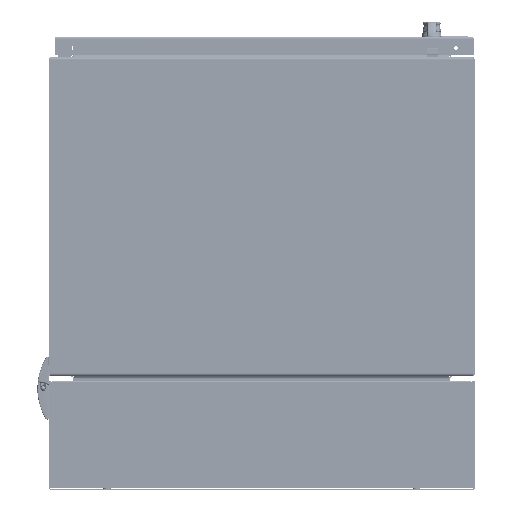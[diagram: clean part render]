
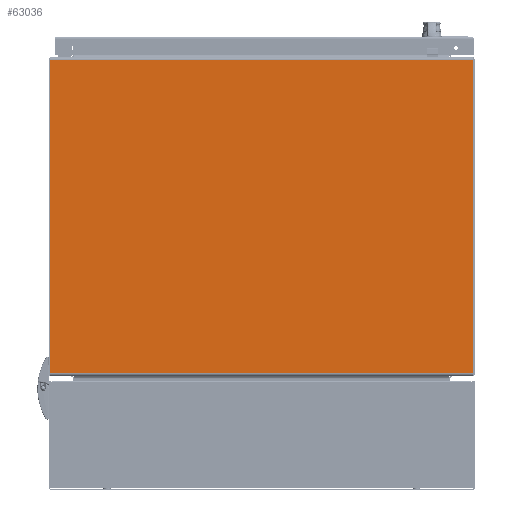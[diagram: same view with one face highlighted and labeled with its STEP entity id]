
A CAD part, front view. The second image highlights one B-rep face of the part: STEP entity #63036.
In plain terms, the highlighted planar face has unit normal (0, -1, 0).
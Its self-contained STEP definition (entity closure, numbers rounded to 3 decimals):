
#5575 = CARTESIAN_POINT ( 'NONE',  ( 298.171, 0., 225. ) ) ;
#5580 = PLANE ( 'NONE',  #135710 ) ;
#5585 = DIRECTION ( 'NONE',  ( 0., 1., 0. ) ) ;
#5586 = DIRECTION ( 'NONE',  ( 0., 0., 1. ) ) ;
#11358 = CARTESIAN_POINT ( 'NONE',  ( -298.171, 0., -220.885 ) ) ;
#11724 = CARTESIAN_POINT ( 'NONE',  ( 298.171, 0., 220.885 ) ) ;
#11761 = CARTESIAN_POINT ( 'NONE',  ( 298.171, 0., -220.885 ) ) ;
#12532 = CARTESIAN_POINT ( 'NONE',  ( -298.171, 0., 220.885 ) ) ;
#62245 = EDGE_CURVE ( 'NONE', #77611, #78040, #138885, .T. ) ;
#62253 = EDGE_CURVE ( 'NONE', #77749, #78040, #138901, .T. ) ;
#62325 = EDGE_CURVE ( 'NONE', #77611, #77763, #139134, .T. ) ;
#62326 = EDGE_CURVE ( 'NONE', #77749, #77763, #139138, .T. ) ;
#63036 = ADVANCED_FACE ( 'NONE', ( #141002 ), #5580, .F. ) ;
#66571 = ORIENTED_EDGE ( 'NONE', *, *, #62325, .T. ) ;
#66572 = ORIENTED_EDGE ( 'NONE', *, *, #62326, .F. ) ;
#66573 = ORIENTED_EDGE ( 'NONE', *, *, #62253, .T. ) ;
#66574 = ORIENTED_EDGE ( 'NONE', *, *, #62245, .F. ) ;
#77611 = VERTEX_POINT ( 'NONE', #11358 ) ;
#77749 = VERTEX_POINT ( 'NONE', #11724 ) ;
#77763 = VERTEX_POINT ( 'NONE', #11761 ) ;
#78040 = VERTEX_POINT ( 'NONE', #12532 ) ;
#83915 = EDGE_LOOP ( 'NONE', ( #66571, #66572, #66573, #66574 ) ) ;
#129703 = CARTESIAN_POINT ( 'NONE',  ( -298.171, 0., -225. ) ) ;
#129706 = DIRECTION ( 'NONE',  ( 0., 0., 1. ) ) ;
#129718 = CARTESIAN_POINT ( 'NONE',  ( 298.171, 0., 220.885 ) ) ;
#129723 = DIRECTION ( 'NONE',  ( -1., 0., 0. ) ) ;
#129884 = CARTESIAN_POINT ( 'NONE',  ( -298.171, 0., -220.885 ) ) ;
#129885 = DIRECTION ( 'NONE',  ( 1., 0., 0. ) ) ;
#129886 = CARTESIAN_POINT ( 'NONE',  ( 298.171, 0., -225. ) ) ;
#129887 = DIRECTION ( 'NONE',  ( 0., 0., -1. ) ) ;
#135710 = AXIS2_PLACEMENT_3D ( 'NONE', #5575, #5585, #5586 ) ;
#138885 = LINE ( 'NONE', #129703, #138891 ) ;
#138891 = VECTOR ( 'NONE', #129706, 1000. ) ;
#138901 = LINE ( 'NONE', #129718, #138919 ) ;
#138919 = VECTOR ( 'NONE', #129723, 1000. ) ;
#139134 = LINE ( 'NONE', #129884, #139135 ) ;
#139135 = VECTOR ( 'NONE', #129885, 1000. ) ;
#139138 = LINE ( 'NONE', #129886, #139139 ) ;
#139139 = VECTOR ( 'NONE', #129887, 1000. ) ;
#141002 = FACE_OUTER_BOUND ( 'NONE', #83915, .T. ) ;
